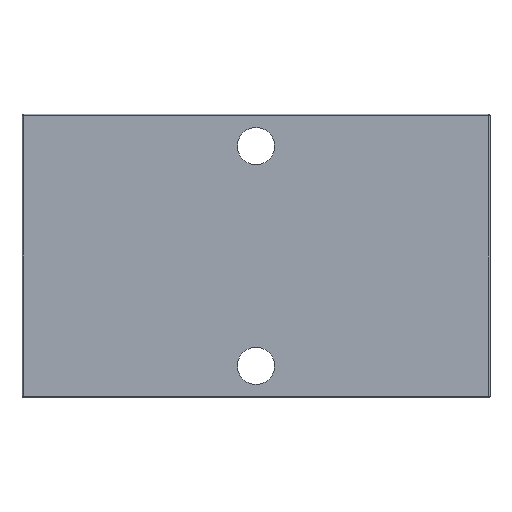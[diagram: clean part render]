
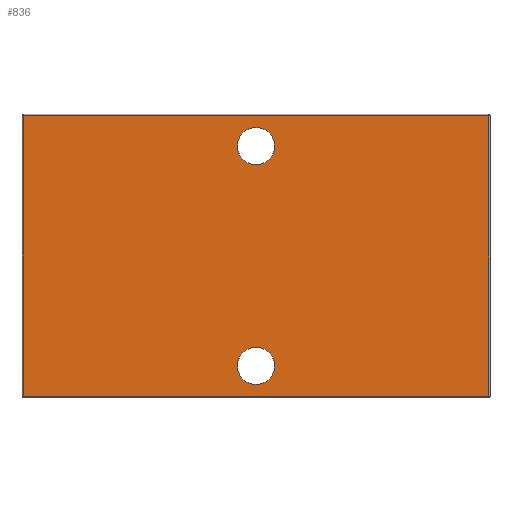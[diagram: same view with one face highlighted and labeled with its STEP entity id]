
A CAD part, front view. The second image highlights one B-rep face of the part: STEP entity #836.
In plain terms, the highlighted planar face has unit normal (0, -1, 0).
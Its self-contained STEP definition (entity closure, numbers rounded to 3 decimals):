
#43=FACE_BOUND('',#263,.T.);
#44=FACE_BOUND('',#264,.T.);
#54=PLANE('',#939);
#71=LINE('',#1366,#120);
#73=LINE('',#1369,#122);
#75=LINE('',#1372,#124);
#77=LINE('',#1375,#126);
#120=VECTOR('',#1099,10.);
#122=VECTOR('',#1103,10.);
#124=VECTOR('',#1107,10.);
#126=VECTOR('',#1111,10.);
#203=FACE_OUTER_BOUND('',#262,.T.);
#262=EDGE_LOOP('',(#657,#658,#659,#660));
#263=EDGE_LOOP('',(#661));
#264=EDGE_LOOP('',(#662));
#326=CIRCLE('',#940,2.625);
#327=CIRCLE('',#941,2.625);
#361=VERTEX_POINT('',#1287);
#364=VERTEX_POINT('',#1294);
#367=VERTEX_POINT('',#1301);
#373=VERTEX_POINT('',#1318);
#392=VERTEX_POINT('',#1399);
#393=VERTEX_POINT('',#1401);
#474=EDGE_CURVE('',#364,#373,#71,.T.);
#476=EDGE_CURVE('',#373,#367,#73,.T.);
#478=EDGE_CURVE('',#367,#361,#75,.T.);
#480=EDGE_CURVE('',#361,#364,#77,.T.);
#490=EDGE_CURVE('',#392,#392,#326,.T.);
#491=EDGE_CURVE('',#393,#393,#327,.T.);
#657=ORIENTED_EDGE('',*,*,#474,.F.);
#658=ORIENTED_EDGE('',*,*,#480,.F.);
#659=ORIENTED_EDGE('',*,*,#478,.F.);
#660=ORIENTED_EDGE('',*,*,#476,.F.);
#661=ORIENTED_EDGE('',*,*,#490,.T.);
#662=ORIENTED_EDGE('',*,*,#491,.T.);
#836=ADVANCED_FACE('',(#203,#43,#44),#54,.F.);
#939=AXIS2_PLACEMENT_3D('',#1398,#1139,#1140);
#940=AXIS2_PLACEMENT_3D('',#1400,#1141,#1142);
#941=AXIS2_PLACEMENT_3D('',#1402,#1143,#1144);
#1099=DIRECTION('',(0.,0.,1.));
#1103=DIRECTION('',(1.,0.,0.));
#1107=DIRECTION('',(0.,0.,-1.));
#1111=DIRECTION('',(-1.,0.,0.));
#1139=DIRECTION('center_axis',(0.,1.,0.));
#1140=DIRECTION('ref_axis',(0.,0.,1.));
#1141=DIRECTION('center_axis',(0.,1.,0.));
#1142=DIRECTION('ref_axis',(1.,0.,0.));
#1143=DIRECTION('center_axis',(0.,1.,0.));
#1144=DIRECTION('ref_axis',(1.,0.,0.));
#1287=CARTESIAN_POINT('',(32.8,-10.,-19.8));
#1294=CARTESIAN_POINT('',(-32.8,-10.,-19.8));
#1301=CARTESIAN_POINT('',(32.8,-10.,19.8));
#1318=CARTESIAN_POINT('',(-32.8,-10.,19.8));
#1366=CARTESIAN_POINT('',(-32.8,-10.,-10.));
#1369=CARTESIAN_POINT('',(-16.5,-10.,19.8));
#1372=CARTESIAN_POINT('',(32.8,-10.,10.));
#1375=CARTESIAN_POINT('',(16.5,-10.,-19.8));
#1398=CARTESIAN_POINT('Origin',(0.,-10.,0.));
#1399=CARTESIAN_POINT('',(-2.625,-10.,15.5));
#1400=CARTESIAN_POINT('Origin',(0.,-10.,15.5));
#1401=CARTESIAN_POINT('',(-2.625,-10.,-15.5));
#1402=CARTESIAN_POINT('Origin',(0.,-10.,-15.5));
